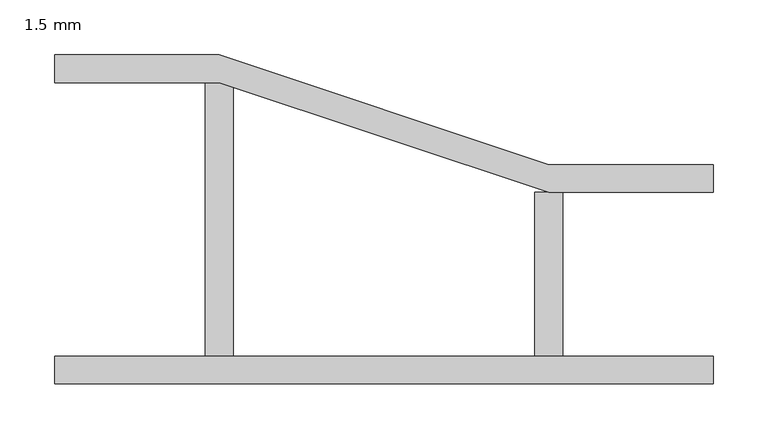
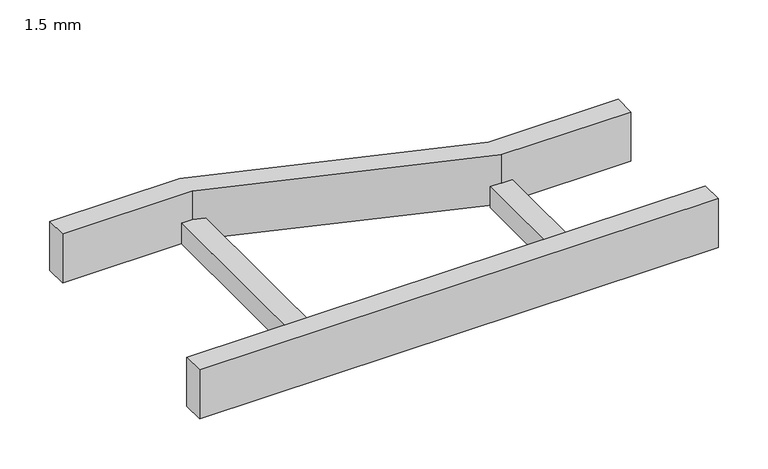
"""IFC4 building model written with IfcOpenShell, lengths in millimetres: cable carrier fitting geometry, BAKS_Redukcja_drabiny E90 : 1.5 mm."""

from ifc_helpers import new_model, si_unit, frame, origin, place, context, project, spatial, polyline, outline, extrude, source, transform, mapped, element, save


def cable_carrier_fitting_1_5_mm_ccf48cd3(model_context):
    return source(origin(), model_context, "Body", "SweptSolid", [
        extrude(outline(polyline([(0.0, -150.0), (0.0, -124.6), (600.0, -124.6), (600.0, -150.0), (0.0, -150.0)])), frame((0.0, 0.0, -30.0), z_axis=(0.0, 0.0, 1.0), x_axis=(1.0, 0.0, 0.0)), (0.0, 0.0, 1.0), 60.0),
        extrude(outline(polyline([(0.0, 124.6), (0.0, 150.0), (150.0, 150.0), (450.0, 50.0), (600.0, 50.0), (600.0, 24.6), (450.0, 24.6), (150.0, 124.6), (0.0, 124.6)])), frame((0.0, 0.0, -30.0), z_axis=(0.0, 0.0, 1.0), x_axis=(1.0, 0.0, 0.0)), (0.0, 0.0, 1.0), 60.0),
        extrude(outline(polyline([(437.3, 24.6), (462.7, 24.6), (462.7, -124.6), (437.3, -124.6), (437.3, 24.6)])), frame((0.0, 0.0, -30.0), z_axis=(0.0, 0.0, 1.0), x_axis=(1.0, 0.0, 0.0)), (0.0, 0.0, 1.0), 25.4),
        extrude(outline(polyline([(137.3, 124.6), (162.7, 124.6), (162.7, -124.6), (137.3, -124.6), (137.3, 124.6)])), frame((0.0, 0.0, -30.0), z_axis=(0.0, 0.0, 1.0), x_axis=(1.0, 0.0, 0.0)), (0.0, 0.0, 1.0), 25.4),
    ])


if __name__ == "__main__":
    model = new_model("IFC4")
    model_context = context("Model", 3, world=origin())
    ifc_project = project(units=[si_unit("LENGTHUNIT", "METRE", prefix="MILLI")], contexts=[model_context])
    site = spatial("IfcSite", under=ifc_project)
    building = spatial("IfcBuilding", under=site)
    placement = place(None, origin())
    cable_carrier_fitting_1_5_mm_shape = cable_carrier_fitting_1_5_mm_ccf48cd3(model_context)
    element("IfcCableCarrierFitting", 1, ObjectType="BAKS_Redukcja_drabiny E90 : 1.5 mm", at=placement, inside=building, context=model_context, shape_type="MappedRepresentation", body=[
        mapped(cable_carrier_fitting_1_5_mm_shape, transform((0.0, 0.0, 0.0), x_axis=(1.0, 0.0, 0.0), y_axis=(0.0, 1.0, 0.0), z_axis=(0.0, 0.0, 1.0))),
    ])
    save(model, "model.ifc")
